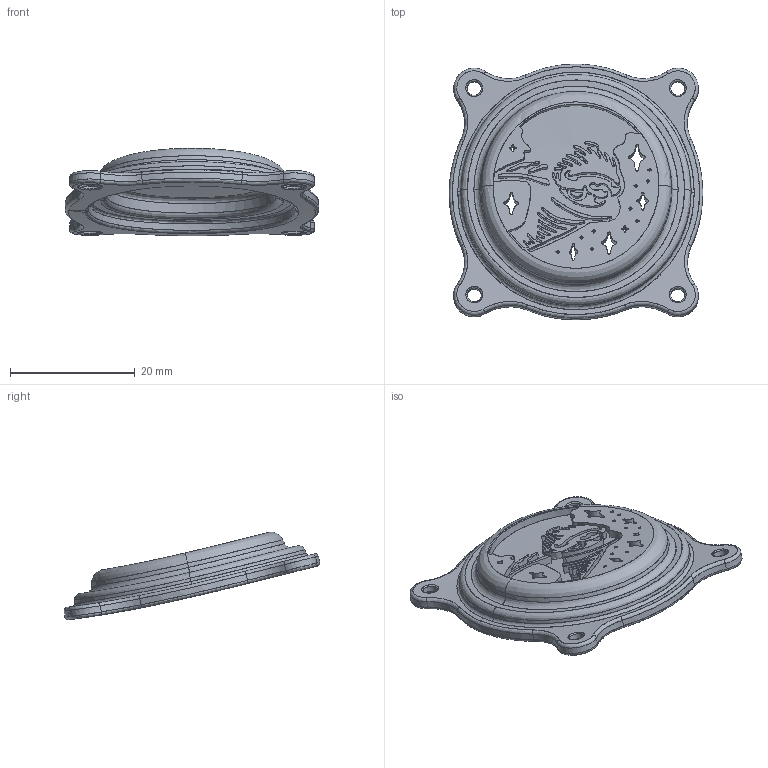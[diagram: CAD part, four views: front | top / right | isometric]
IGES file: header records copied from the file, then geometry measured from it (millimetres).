
Start section: Speaker 2 inch..SLDPRT - PrototypeComponentType Speaker 2 inch..SLDPRT - PrototypeComponentType Speaker 2 inch..SLDPRT - PrototypeComponentType Speaker 2 inch..SLDPRT - PrototypeComponentType 10 rocker-switch-KCD1..SLDPRT - PrototypeComponentType 10 rocker-switch-KCD1..SLDPRT - PrototypeComponentType 10 rocker-switch-KCD1..SLDPRT - PrototypeComponentType 10 rocker-switch-KCD1..SLDPRT - PrototypeCo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
Global section: file name: C:\Users\Victor\Desktop\VentanaGoblin2.igs; native system: Rhinoceros ( Feb 27 2019 ); preprocessor: Trout Lake IGES 012 Feb 27 2019; date: 240310.231753; units: millimetre
Bounding box: 40.65 x 41.03 x 14.04 mm (x, y, z)
Surface area: 4433.7 mm2 (no closed solid volume)
Topology: 0 solids, 0 shells, 204 faces, 5473 edges, 5473 vertices
Faces by surface type: bspline 204
